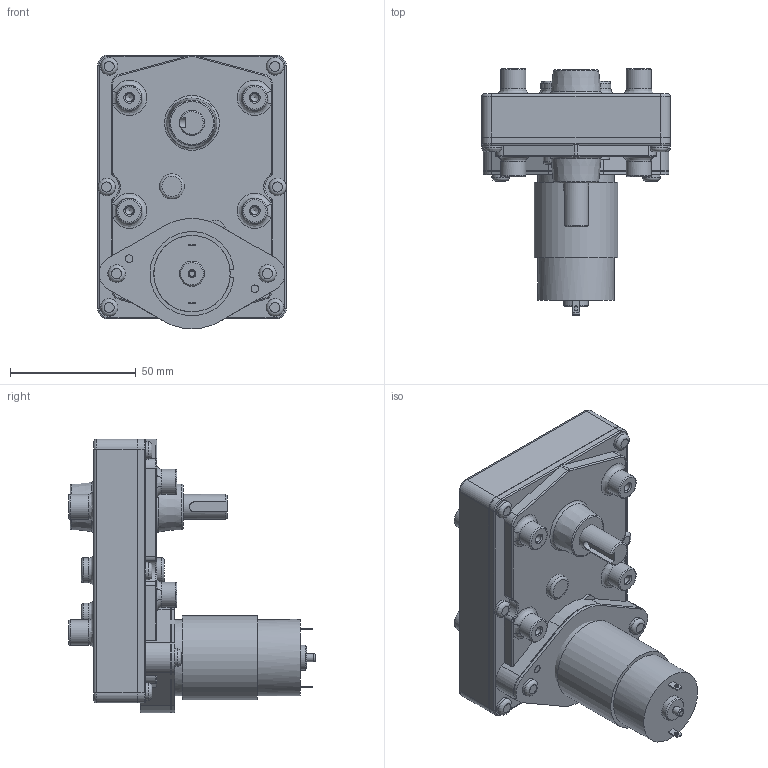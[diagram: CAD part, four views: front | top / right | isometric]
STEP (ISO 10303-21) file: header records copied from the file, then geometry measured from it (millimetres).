
FILE_DESCRIPTION((''),'2;1');
FILE_NAME('\\Servert1600\threepeace\2015homepage\STP\HP-Data_GM_3D_STEP\TP-3452A,B,C-LG-6～1000-S00-12,24.stp','2016-11-11T11:48:25',('Administrator'),(''),'Autodesk Inventor 2010','Autodesk Inventor 2010','');
FILE_SCHEMA(('AUTOMOTIVE_DESIGN { 1 0 10303 214 1 1 1 1 }'));
Length unit declared in the file: millimetre
Products named in the file (3): TP-3452A,B,C-LG-6～1000-S00-12,24; lg; TP-3452A,B,C
Assembly tree (2 placements, depth 2):
  TP-3452A,B,C-LG-6～1000-S00-12,24
    lg
    TP-3452A,B,C
Bounding box: 75 x 98.1 x 109 mm (x, y, z)
Volume: 261632.3 mm3; surface area: 38294.6 mm2
Topology: 2 solids, 2 shells, 294 faces, 680 edges, 423 vertices
Faces by surface type: plane 101, cylinder 84, bspline 54, torus 40, cone 15
Full cylindrical faces by diameter (mm): 2.5 x1, 3 x2, 3.17 x2, 7 x4, 9 x2, 9.9 x1, 10 x12, 15 x1, 30.4 x1
Entity records: 8831 total; most frequent: CARTESIAN_POINT 2635, DIRECTION 1321, ORIENTED_EDGE 1110, EDGE_CURVE 555, AXIS2_PLACEMENT_3D 537, EDGE_LOOP 429, VERTEX_POINT 396, FACE_OUTER_BOUND 294
